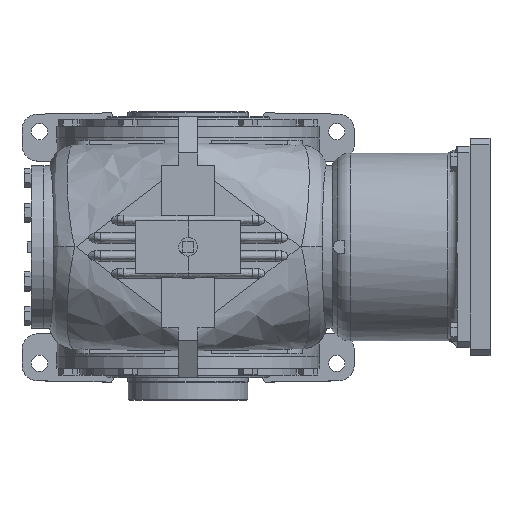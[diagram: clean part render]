
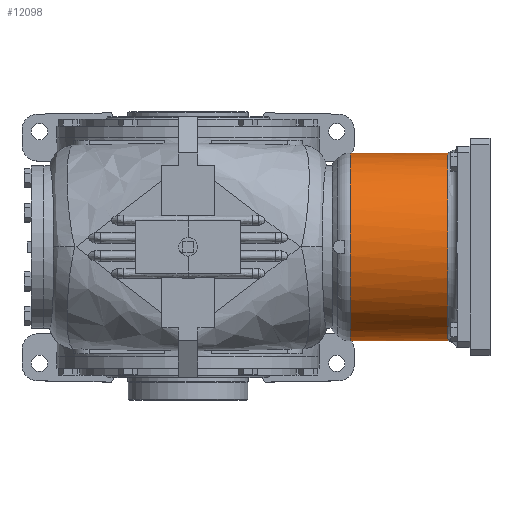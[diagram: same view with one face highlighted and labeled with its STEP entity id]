
A CAD part, top view. The second image highlights one B-rep face of the part: STEP entity #12098.
In plain terms, the highlighted cylindrical face has radius 136.525 mm (diameter 273.05 mm), a partial arc.
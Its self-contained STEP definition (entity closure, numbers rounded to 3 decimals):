
#318=CYLINDRICAL_SURFACE('',#14994,136.525);
#733=B_SPLINE_CURVE_WITH_KNOTS('',3,(#37310,#37311,#37312,#37313,#37314),
 .UNSPECIFIED.,.F.,.F.,(4,1,4),(0.,0.007,
0.015),.UNSPECIFIED.);
#734=B_SPLINE_CURVE_WITH_KNOTS('',3,(#37316,#37317,#37318,#37319,#37320),
 .UNSPECIFIED.,.F.,.F.,(4,1,4),(0.,0.007,
0.015),.UNSPECIFIED.);
#735=B_SPLINE_CURVE_WITH_KNOTS('',3,(#37324,#37325,#37326,#37327),
 .UNSPECIFIED.,.F.,.F.,(4,4),(0.064,0.069),
 .UNSPECIFIED.);
#736=B_SPLINE_CURVE_WITH_KNOTS('',3,(#37331,#37332,#37333,#37334),
 .UNSPECIFIED.,.F.,.F.,(4,4),(0.,0.006),.UNSPECIFIED.);
#1648=LINE('',#37322,#2576);
#1649=LINE('',#37336,#2577);
#2576=VECTOR('',#17551,1000.);
#2577=VECTOR('',#17554,1000.);
#5684=ORIENTED_EDGE('',*,*,#7628,.F.);
#5685=ORIENTED_EDGE('',*,*,#7622,.F.);
#5686=ORIENTED_EDGE('',*,*,#7629,.F.);
#5687=ORIENTED_EDGE('',*,*,#7630,.F.);
#5688=ORIENTED_EDGE('',*,*,#7631,.T.);
#5689=ORIENTED_EDGE('',*,*,#7632,.T.);
#5690=ORIENTED_EDGE('',*,*,#7633,.T.);
#5691=ORIENTED_EDGE('',*,*,#7634,.F.);
#7622=EDGE_CURVE('',#8868,#8869,#9183,.T.);
#7628=EDGE_CURVE('',#8869,#8874,#733,.T.);
#7629=EDGE_CURVE('',#8875,#8868,#734,.T.);
#7630=EDGE_CURVE('',#8876,#8875,#1648,.T.);
#7631=EDGE_CURVE('',#8876,#8877,#735,.T.);
#7632=EDGE_CURVE('',#8877,#8878,#9186,.F.);
#7633=EDGE_CURVE('',#8878,#8879,#736,.T.);
#7634=EDGE_CURVE('',#8874,#8879,#1649,.F.);
#8868=VERTEX_POINT('',#37282);
#8869=VERTEX_POINT('',#37283);
#8874=VERTEX_POINT('',#37315);
#8875=VERTEX_POINT('',#37321);
#8876=VERTEX_POINT('',#37323);
#8877=VERTEX_POINT('',#37328);
#8878=VERTEX_POINT('',#37330);
#8879=VERTEX_POINT('',#37335);
#9183=CIRCLE('',#14990,136.525);
#9186=CIRCLE('',#14995,136.525);
#9999=EDGE_LOOP('',(#5684,#5685,#5686,#5687,#5688,#5689,#5690,#5691));
#10905=FACE_BOUND('',#9999,.T.);
#12098=ADVANCED_FACE('',(#10905),#318,.T.);
#14990=AXIS2_PLACEMENT_3D('',#37281,#17539,#17540);
#14994=AXIS2_PLACEMENT_3D('',#37309,#17549,#17550);
#14995=AXIS2_PLACEMENT_3D('',#37329,#17552,#17553);
#17539=DIRECTION('',(-1.,0.,0.));
#17540=DIRECTION('',(0.,0.,1.));
#17549=DIRECTION('',(-1.,0.,0.));
#17550=DIRECTION('',(0.,0.,1.));
#17551=DIRECTION('',(-1.,0.,0.));
#17552=DIRECTION('',(1.,0.,0.));
#17553=DIRECTION('',(0.,0.,-1.));
#17554=DIRECTION('',(-1.,0.,0.));
#37281=CARTESIAN_POINT('',(25.69,0.,0.));
#37282=CARTESIAN_POINT('',(25.69,-24.927,-134.23));
#37283=CARTESIAN_POINT('',(25.69,24.927,-134.23));
#37309=CARTESIAN_POINT('',(-60.008,0.,0.));
#37310=CARTESIAN_POINT('',(25.69,24.927,-134.23));
#37311=CARTESIAN_POINT('',(27.821,26.122,-134.008));
#37312=CARTESIAN_POINT('',(32.302,27.93,-133.641));
#37313=CARTESIAN_POINT('',(37.205,28.575,-133.501));
#37314=CARTESIAN_POINT('',(39.66,28.575,-133.501));
#37315=CARTESIAN_POINT('',(39.66,28.575,-133.501));
#37316=CARTESIAN_POINT('',(39.66,-28.575,-133.501));
#37317=CARTESIAN_POINT('',(37.205,-28.575,-133.501));
#37318=CARTESIAN_POINT('',(32.402,-27.956,-133.636));
#37319=CARTESIAN_POINT('',(27.822,-26.122,-134.008));
#37320=CARTESIAN_POINT('',(25.69,-24.927,-134.23));
#37321=CARTESIAN_POINT('',(39.66,-28.575,-133.501));
#37322=CARTESIAN_POINT('',(-60.008,-28.575,-133.501));
#37323=CARTESIAN_POINT('',(167.52,-28.575,-133.501));
#37324=CARTESIAN_POINT('',(167.52,-28.575,-133.501));
#37325=CARTESIAN_POINT('',(167.477,-30.402,-133.11));
#37326=CARTESIAN_POINT('',(167.45,-32.223,-132.681));
#37327=CARTESIAN_POINT('',(167.45,-34.038,-132.214));
#37328=CARTESIAN_POINT('',(167.45,-34.038,-132.214));
#37329=CARTESIAN_POINT('',(167.45,0.,0.));
#37330=CARTESIAN_POINT('',(167.45,34.038,-132.214));
#37331=CARTESIAN_POINT('',(167.45,34.038,-132.214));
#37332=CARTESIAN_POINT('',(167.45,32.226,-132.68));
#37333=CARTESIAN_POINT('',(167.477,30.403,-133.11));
#37334=CARTESIAN_POINT('',(167.52,28.575,-133.501));
#37335=CARTESIAN_POINT('',(167.52,28.575,-133.501));
#37336=CARTESIAN_POINT('',(-60.008,28.575,-133.501));
